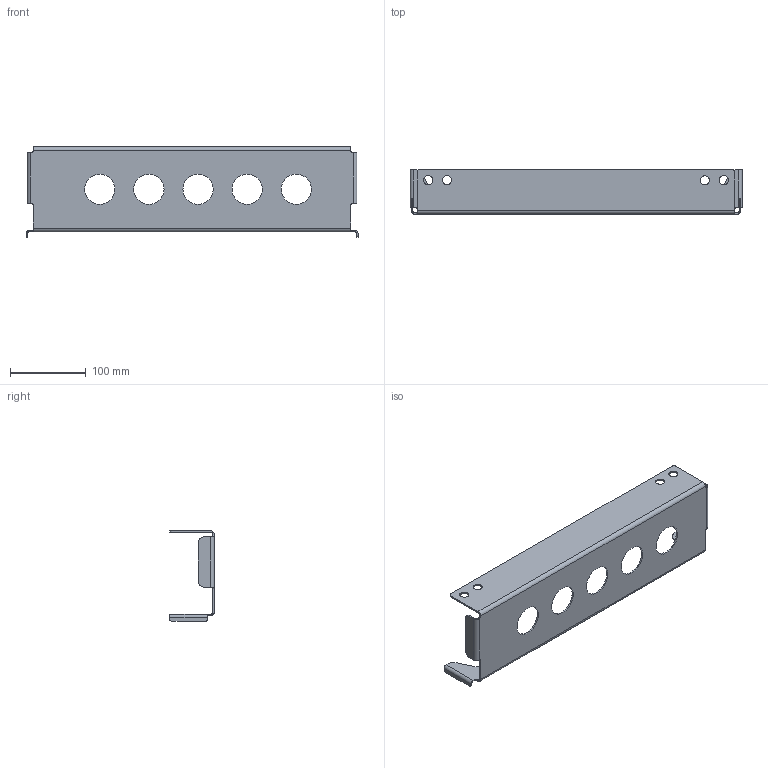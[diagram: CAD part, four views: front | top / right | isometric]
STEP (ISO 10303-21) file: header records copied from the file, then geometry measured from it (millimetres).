
FILE_DESCRIPTION(('CATIA V5 STEP Exchange'),'2;1');
FILE_NAME('D:\杨逍（新）\06-李燕龙\2023.1.9-G3新开件2D图纸-李燕龙\钣金单件图纸\SHT0015279-标配底支架左边板\SHT0015279.stp','2023-01-11T06:28:21+00:00',('none'),('none'),'CATIA Version 5 Release 20 GA (IN-10)','CATIA V5 STEP AP214','none');
FILE_SCHEMA(('AUTOMOTIVE_DESIGN { 1 0 10303 214 1 1 1 1 }'));
Length unit declared in the file: millimetre
Products named in the file (1): Part98
Bounding box: 439 x 59 x 119.7 mm (x, y, z)
Volume: 156877.8 mm3; surface area: 161350.1 mm2
Topology: 1 solids, 1 shells, 98 faces, 276 edges, 180 vertices
Faces by surface type: cylinder 62, plane 36
Entity records: 3242 total; most frequent: CARTESIAN_POINT 780, ORIENTED_EDGE 552, DIRECTION 409, EDGE_CURVE 276, AXIS2_PLACEMENT_3D 181, VERTEX_POINT 180, VECTOR 148, LINE 148
